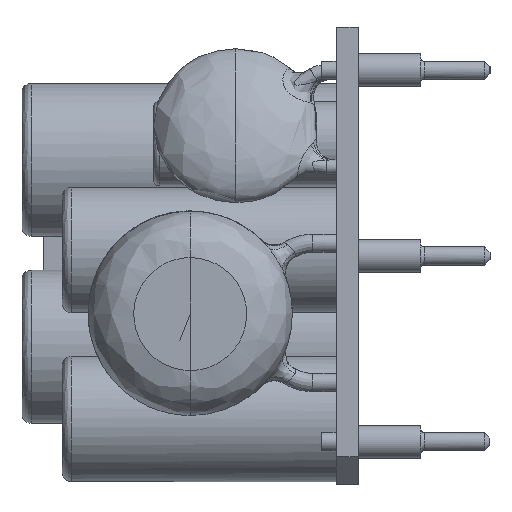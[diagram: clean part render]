
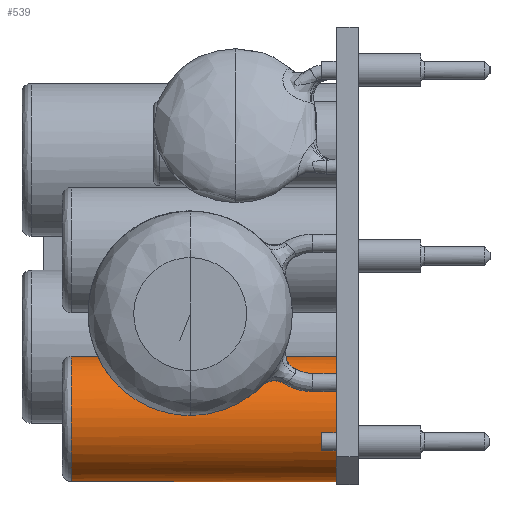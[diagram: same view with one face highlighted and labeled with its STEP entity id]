
A CAD part, left-side view. The second image highlights one B-rep face of the part: STEP entity #539.
In plain terms, the highlighted free-form (B-spline) face has degree [1, 3] with [2, 4] control points.
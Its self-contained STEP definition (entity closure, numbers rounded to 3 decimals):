
#34 = CARTESIAN_POINT ( 'NONE',  ( -18.068, 0., -10.867 ) ) ;
#97 = CARTESIAN_POINT ( 'NONE',  ( -17.625, 0., -11.403 ) ) ;
#478 = CARTESIAN_POINT ( 'NONE',  ( -15.171, 14.5, -12.347 ) ) ;
#519 = CARTESIAN_POINT ( 'NONE',  ( -15.171, 14.5, -5.503 ) ) ;
#539 = ADVANCED_FACE ( 'NONE', ( #8855 ), #9150, .F. ) ;
#591 = CARTESIAN_POINT ( 'NONE',  ( -18.327, 0., -7.601 ) ) ;
#1507 = CARTESIAN_POINT ( 'NONE',  ( -15.171, 0., -12.347 ) ) ;
#1765 = EDGE_CURVE ( 'NONE', #9384, #6428, #2633, .T. ) ;
#1961 = CARTESIAN_POINT ( 'NONE',  ( -15.842, 0., -12.347 ) ) ;
#2078 = CARTESIAN_POINT ( 'NONE',  ( -18.068, 0., -6.983 ) ) ;
#2123 = CARTESIAN_POINT ( 'NONE',  ( -22.016, 14.5, -5.503 ) ) ;
#2277 = CARTESIAN_POINT ( 'NONE',  ( -18.327, 0., -7.601 ) ) ;
#2318 = EDGE_CURVE ( 'NONE', #6428, #10875, #3231, .T. ) ;
#2475 = EDGE_CURVE ( 'NONE', #10128, #9396, #6821, .T. ) ;
#2633 = B_SPLINE_CURVE_WITH_KNOTS ( 'NONE', 1,
 ( #8844, #8713 ),
 .UNSPECIFIED., .F., .F.,
 ( 2, 2 ),
 ( -1., 0. ),
 .UNSPECIFIED. ) ;
#2772 = CARTESIAN_POINT ( 'NONE',  ( -22.016, 14.5, -12.347 ) ) ;
#3022 = CARTESIAN_POINT ( 'NONE',  ( -15.171, 0., -5.503 ) ) ;
#3110 = CARTESIAN_POINT ( 'NONE',  ( -22.016, 14.5, -12.347 ) ) ;
#3231 =( BOUNDED_CURVE ( )  B_SPLINE_CURVE ( 3, ( #9326, #3110, #2123, #11237 ),
 .UNSPECIFIED., .F., .F. ) 
 B_SPLINE_CURVE_WITH_KNOTS ( ( 4, 4 ),
 ( 0., 3.142 ),
 .UNSPECIFIED. ) 
 CURVE ( )  GEOMETRIC_REPRESENTATION_ITEM ( )  RATIONAL_B_SPLINE_CURVE ( ( 0.957, 0.319, 0.319, 0.957 ) ) 
 REPRESENTATION_ITEM ( '' )  );
#3816 = CARTESIAN_POINT ( 'NONE',  ( -22.016, 0., -12.347 ) ) ;
#3977 = ORIENTED_EDGE ( 'NONE', *, *, #6173, .F. ) ;
#4119 = CARTESIAN_POINT ( 'NONE',  ( -15.171, 0., -12.347 ) ) ;
#4177 = CARTESIAN_POINT ( 'NONE',  ( -17.625, 0., -6.447 ) ) ;
#4478 = CARTESIAN_POINT ( 'NONE',  ( -18.503, 0., -9.83 ) ) ;
#4584 = CARTESIAN_POINT ( 'NONE',  ( -15.171, 0., -12.347 ) ) ;
#4613 = CARTESIAN_POINT ( 'NONE',  ( -18.594, 0., -8.471 ) ) ;
#5110 = CARTESIAN_POINT ( 'NONE',  ( -16.508, 0., -5.704 ) ) ;
#5426 = ORIENTED_EDGE ( 'NONE', *, *, #1765, .F. ) ;
#6173 = EDGE_CURVE ( 'NONE', #10875, #12606, #6237, .T. ) ;
#6237 = B_SPLINE_CURVE_WITH_KNOTS ( 'NONE', 1,
 ( #12077, #3022 ),
 .UNSPECIFIED., .F., .F.,
 ( 2, 2 ),
 ( -1., 0. ),
 .UNSPECIFIED. ) ;
#6428 = VERTEX_POINT ( 'NONE', #478 ) ;
#6596 = CARTESIAN_POINT ( 'NONE',  ( -15.171, 0., -5.503 ) ) ;
#6813 = CARTESIAN_POINT ( 'NONE',  ( -18.327, 0., -7.601 ) ) ;
#6821 = B_SPLINE_CURVE_WITH_KNOTS ( 'NONE', 3,
 ( #591, #7402, #4613, #12615, #4478, #8664 ),
 .UNSPECIFIED., .F., .F.,
 ( 4, 2, 4 ),
 ( 0., 0.397, 0.794 ),
 .UNSPECIFIED. ) ;
#6976 = CARTESIAN_POINT ( 'NONE',  ( -16.508, 0., -12.146 ) ) ;
#7160 = CARTESIAN_POINT ( 'NONE',  ( -15.842, 0., -5.503 ) ) ;
#7402 = CARTESIAN_POINT ( 'NONE',  ( -18.503, 0., -8.021 ) ) ;
#8036 = CARTESIAN_POINT ( 'NONE',  ( -18.327, 0., -10.249 ) ) ;
#8193 = ORIENTED_EDGE ( 'NONE', *, *, #10471, .F. ) ;
#8536 = B_SPLINE_CURVE_WITH_KNOTS ( 'NONE', 3,
 ( #11323, #7160, #5110, #4177, #2078, #2277 ),
 .UNSPECIFIED., .F., .F.,
 ( 4, 2, 4 ),
 ( 0., 0.587, 1.174 ),
 .UNSPECIFIED. ) ;
#8664 = CARTESIAN_POINT ( 'NONE',  ( -18.327, 0., -10.249 ) ) ;
#8681 = B_SPLINE_CURVE_WITH_KNOTS ( 'NONE', 3,
 ( #8036, #34, #97, #6976, #1961, #4119 ),
 .UNSPECIFIED., .F., .F.,
 ( 4, 2, 4 ),
 ( 0., 0.587, 1.174 ),
 .UNSPECIFIED. ) ;
#8713 = CARTESIAN_POINT ( 'NONE',  ( -15.171, 14.5, -12.347 ) ) ;
#8844 = CARTESIAN_POINT ( 'NONE',  ( -15.171, 0., -12.347 ) ) ;
#8855 = FACE_OUTER_BOUND ( 'NONE', #9841, .T. ) ;
#9150 =( BOUNDED_SURFACE ( )  B_SPLINE_SURFACE ( 1, 3, ( 
 ( #519, #11821, #2772, #10832 ),
 ( #6596, #12873, #3816, #1507 ) ),
 .UNSPECIFIED., .F., .F., .F. ) 
 B_SPLINE_SURFACE_WITH_KNOTS ( ( 2, 2 ),
 ( 4, 4 ),
 ( 0., 1. ),
 ( 0., 1. ),
 .UNSPECIFIED. ) 
 GEOMETRIC_REPRESENTATION_ITEM ( )  RATIONAL_B_SPLINE_SURFACE ( (
 ( 1., 0.333, 0.333, 1.),
 ( 1., 0.333, 0.333, 1.) ) ) 
 REPRESENTATION_ITEM ( '' )  SURFACE ( )  );
#9326 = CARTESIAN_POINT ( 'NONE',  ( -15.171, 14.5, -12.347 ) ) ;
#9384 = VERTEX_POINT ( 'NONE', #4584 ) ;
#9396 = VERTEX_POINT ( 'NONE', #9625 ) ;
#9585 = EDGE_CURVE ( 'NONE', #12606, #10128, #8536, .T. ) ;
#9625 = CARTESIAN_POINT ( 'NONE',  ( -18.327, 0., -10.249 ) ) ;
#9841 = EDGE_LOOP ( 'NONE', ( #9902, #5426, #8193, #11460, #12233, #3977 ) ) ;
#9902 = ORIENTED_EDGE ( 'NONE', *, *, #2318, .F. ) ;
#9940 = CARTESIAN_POINT ( 'NONE',  ( -15.171, 14.5, -5.503 ) ) ;
#10128 = VERTEX_POINT ( 'NONE', #6813 ) ;
#10471 = EDGE_CURVE ( 'NONE', #9396, #9384, #8681, .T. ) ;
#10832 = CARTESIAN_POINT ( 'NONE',  ( -15.171, 14.5, -12.347 ) ) ;
#10875 = VERTEX_POINT ( 'NONE', #9940 ) ;
#11237 = CARTESIAN_POINT ( 'NONE',  ( -15.171, 14.5, -5.503 ) ) ;
#11323 = CARTESIAN_POINT ( 'NONE',  ( -15.171, 0., -5.503 ) ) ;
#11460 = ORIENTED_EDGE ( 'NONE', *, *, #2475, .F. ) ;
#11561 = CARTESIAN_POINT ( 'NONE',  ( -15.171, 0., -5.503 ) ) ;
#11821 = CARTESIAN_POINT ( 'NONE',  ( -22.016, 14.5, -5.503 ) ) ;
#12077 = CARTESIAN_POINT ( 'NONE',  ( -15.171, 14.5, -5.503 ) ) ;
#12233 = ORIENTED_EDGE ( 'NONE', *, *, #9585, .F. ) ;
#12606 = VERTEX_POINT ( 'NONE', #11561 ) ;
#12615 = CARTESIAN_POINT ( 'NONE',  ( -18.594, 0., -9.38 ) ) ;
#12873 = CARTESIAN_POINT ( 'NONE',  ( -22.016, 0., -5.503 ) ) ;
